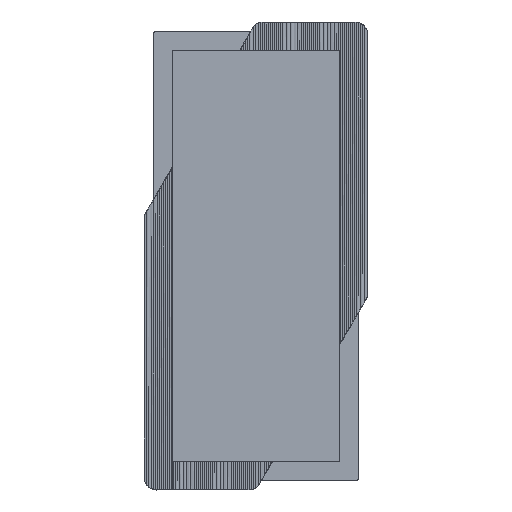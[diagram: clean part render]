
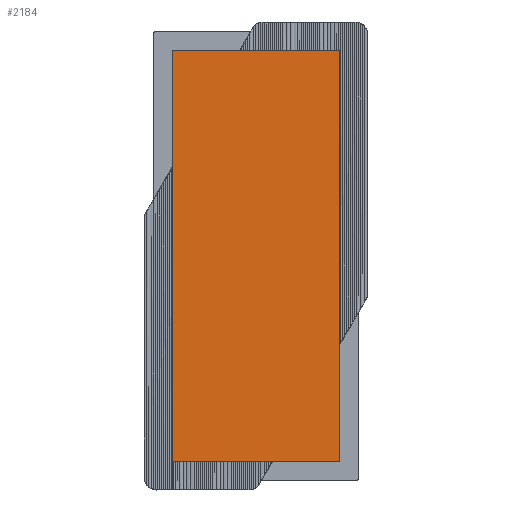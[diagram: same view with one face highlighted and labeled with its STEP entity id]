
A CAD part, front view. The second image highlights one B-rep face of the part: STEP entity #2184.
In plain terms, the highlighted planar face has unit normal (0, -1, 0).
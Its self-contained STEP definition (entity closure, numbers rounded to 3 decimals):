
#52=(
BOUNDED_CURVE()
B_SPLINE_CURVE(2,(#12674,#12675,#12676),.UNSPECIFIED.,.F.,.F.)
B_SPLINE_CURVE_WITH_KNOTS((3,3),(0.,3.142),
 .UNSPECIFIED.)
CURVE()
GEOMETRIC_REPRESENTATION_ITEM()
RATIONAL_B_SPLINE_CURVE((1.,0.707,1.))
REPRESENTATION_ITEM('')
);
#54=(
BOUNDED_CURVE()
B_SPLINE_CURVE(2,(#12696,#12697,#12698),.UNSPECIFIED.,.F.,.F.)
B_SPLINE_CURVE_WITH_KNOTS((3,3),(0.,3.142),
 .UNSPECIFIED.)
CURVE()
GEOMETRIC_REPRESENTATION_ITEM()
RATIONAL_B_SPLINE_CURVE((1.,0.707,1.))
REPRESENTATION_ITEM('')
);
#56=(
BOUNDED_CURVE()
B_SPLINE_CURVE(2,(#12716,#12717,#12718),.UNSPECIFIED.,.F.,.F.)
B_SPLINE_CURVE_WITH_KNOTS((3,3),(0.,3.142),.UNSPECIFIED.)
CURVE()
GEOMETRIC_REPRESENTATION_ITEM()
RATIONAL_B_SPLINE_CURVE((1.,0.707,1.))
REPRESENTATION_ITEM('')
);
#58=(
BOUNDED_CURVE()
B_SPLINE_CURVE(2,(#12734,#12735,#12736),.UNSPECIFIED.,.F.,.F.)
B_SPLINE_CURVE_WITH_KNOTS((3,3),(0.,3.142),.UNSPECIFIED.)
CURVE()
GEOMETRIC_REPRESENTATION_ITEM()
RATIONAL_B_SPLINE_CURVE((1.,0.707,1.))
REPRESENTATION_ITEM('')
);
#2184=ADVANCED_FACE('',(#2929),#12024,.T.);
#2929=FACE_OUTER_BOUND('',#3676,.T.);
#3676=EDGE_LOOP('',(#4576,#4577,#4578,#4579,#4580,#4581,#4582,#4583));
#4576=ORIENTED_EDGE('',*,*,#8402,.T.);
#4577=ORIENTED_EDGE('',*,*,#8371,.T.);
#4578=ORIENTED_EDGE('',*,*,#8375,.T.);
#4579=ORIENTED_EDGE('',*,*,#8373,.T.);
#4580=ORIENTED_EDGE('',*,*,#8385,.T.);
#4581=ORIENTED_EDGE('',*,*,#8372,.T.);
#4582=ORIENTED_EDGE('',*,*,#8394,.T.);
#4583=ORIENTED_EDGE('',*,*,#8370,.T.);
#8370=EDGE_CURVE('',#10867,#10865,#10277,.T.);
#8371=EDGE_CURVE('',#10866,#10871,#10278,.T.);
#8372=EDGE_CURVE('',#10869,#10870,#10279,.T.);
#8373=EDGE_CURVE('',#10872,#10868,#10280,.T.);
#8375=EDGE_CURVE('',#10871,#10872,#52,.T.);
#8385=EDGE_CURVE('',#10868,#10869,#54,.T.);
#8394=EDGE_CURVE('',#10870,#10867,#56,.T.);
#8402=EDGE_CURVE('',#10865,#10866,#58,.T.);
#10277=B_SPLINE_CURVE_WITH_KNOTS('',1,(#12663,#12664),.UNSPECIFIED.,.F.,
 .F.,(2,2),(0.,644.015),.UNSPECIFIED.);
#10278=B_SPLINE_CURVE_WITH_KNOTS('',1,(#12665,#12666),.UNSPECIFIED.,.F.,
 .F.,(2,2),(0.,1593.945),.UNSPECIFIED.);
#10279=B_SPLINE_CURVE_WITH_KNOTS('',1,(#12667,#12668),.UNSPECIFIED.,.F.,
 .F.,(2,2),(0.,1593.945),.UNSPECIFIED.);
#10280=B_SPLINE_CURVE_WITH_KNOTS('',1,(#12669,#12670),.UNSPECIFIED.,.F.,
 .F.,(2,2),(0.,644.015),.UNSPECIFIED.);
#10865=VERTEX_POINT('',#12607);
#10866=VERTEX_POINT('',#12608);
#10867=VERTEX_POINT('',#12609);
#10868=VERTEX_POINT('',#12610);
#10869=VERTEX_POINT('',#12611);
#10870=VERTEX_POINT('',#12612);
#10871=VERTEX_POINT('',#12613);
#10872=VERTEX_POINT('',#12614);
#12024=PLANE('',#12080);
#12080=AXIS2_PLACEMENT_3D('',#12526,#12119,$);
#12119=DIRECTION('',(0.,-1.,0.));
#12526=CARTESIAN_POINT('',(-1080.358,-513.604,-98.403));
#12607=CARTESIAN_POINT('',(-996.106,-513.604,1700.535));
#12608=CARTESIAN_POINT('',(-998.106,-513.604,1698.535));
#12609=CARTESIAN_POINT('',(-352.091,-513.604,1700.535));
#12610=CARTESIAN_POINT('',(-352.091,-513.604,102.59));
#12611=CARTESIAN_POINT('',(-350.091,-513.604,104.59));
#12612=CARTESIAN_POINT('',(-350.091,-513.604,1698.535));
#12613=CARTESIAN_POINT('',(-998.106,-513.604,104.59));
#12614=CARTESIAN_POINT('',(-996.106,-513.604,102.59));
#12663=CARTESIAN_POINT('',(-352.091,-513.604,1700.535));
#12664=CARTESIAN_POINT('',(-996.106,-513.604,1700.535));
#12665=CARTESIAN_POINT('',(-998.106,-513.604,1698.535));
#12666=CARTESIAN_POINT('',(-998.106,-513.604,104.59));
#12667=CARTESIAN_POINT('',(-350.091,-513.604,104.59));
#12668=CARTESIAN_POINT('',(-350.091,-513.604,1698.535));
#12669=CARTESIAN_POINT('',(-996.106,-513.604,102.59));
#12670=CARTESIAN_POINT('',(-352.091,-513.604,102.59));
#12674=CARTESIAN_POINT('',(-998.106,-513.604,104.59));
#12675=CARTESIAN_POINT('',(-998.106,-513.604,102.59));
#12676=CARTESIAN_POINT('',(-996.106,-513.604,102.59));
#12696=CARTESIAN_POINT('',(-352.091,-513.604,102.59));
#12697=CARTESIAN_POINT('',(-350.091,-513.604,102.59));
#12698=CARTESIAN_POINT('',(-350.091,-513.604,104.59));
#12716=CARTESIAN_POINT('',(-350.091,-513.604,1698.535));
#12717=CARTESIAN_POINT('',(-350.091,-513.604,1700.535));
#12718=CARTESIAN_POINT('',(-352.091,-513.604,1700.535));
#12734=CARTESIAN_POINT('',(-996.106,-513.604,1700.535));
#12735=CARTESIAN_POINT('',(-998.106,-513.604,1700.535));
#12736=CARTESIAN_POINT('',(-998.106,-513.604,1698.535));
